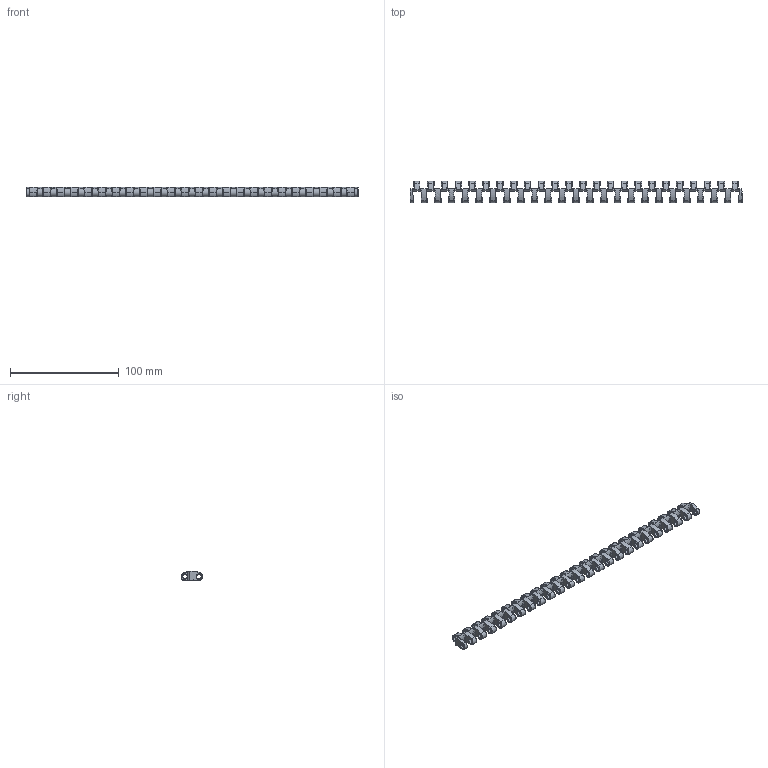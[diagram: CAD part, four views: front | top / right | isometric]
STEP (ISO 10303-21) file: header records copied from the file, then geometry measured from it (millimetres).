
FILE_DESCRIPTION((''),'2;1');
FILE_NAME('P1108','2009-08-27T',('jas'),(''),'PRO/ENGINEER BY PARAMETRIC TECHNOLOGY CORPORATION, 2008490','PRO/ENGINEER BY PARAMETRIC TECHNOLOGY CORPORATION, 2008490','');
FILE_SCHEMA(('AUTOMOTIVE_DESIGN { 1 0 10303 214 1 1 1 1 }'));
Products named in the file (1): P1108
Bounding box: 304.8 x 19.6 x 8.75 mm (x, y, z)
Volume: 16790.7 mm3; surface area: 18201.4 mm2
Topology: 1 solids, 1 shells, 2871 faces, 7104 edges, 4150 vertices
Faces by surface type: bspline 1192, cylinder 855, plane 460, torus 358, sphere 6
Entity records: 177864 total; most frequent: CARTESIAN_POINT 119042, ORIENTED_EDGE 14208, DIRECTION 10040, EDGE_CURVE 7104, AXIS2_PLACEMENT_3D 4223, VERTEX_POINT 4150, B_SPLINE_CURVE_WITH_KNOTS 2966, EDGE_LOOP 2884
